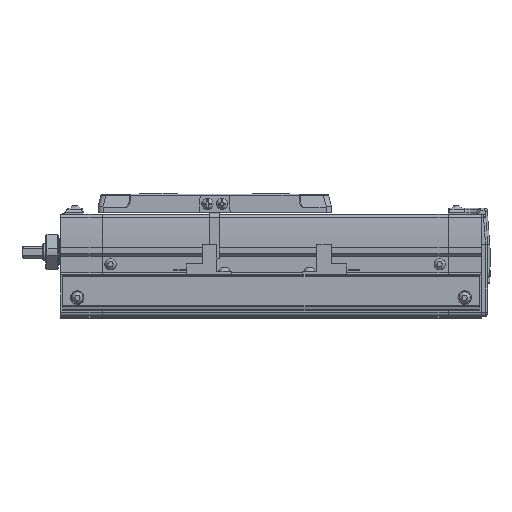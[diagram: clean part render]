
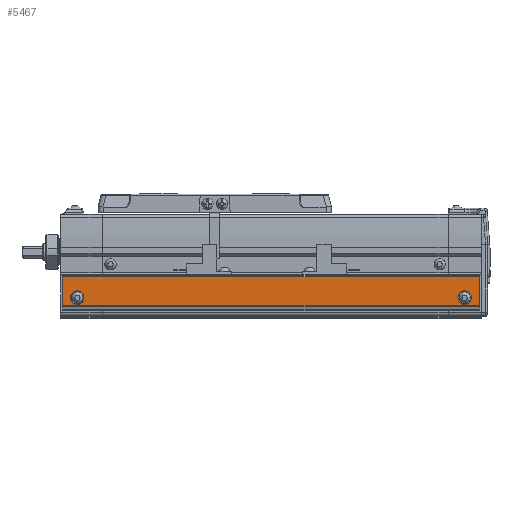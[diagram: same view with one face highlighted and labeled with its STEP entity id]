
A CAD part, front view. The second image highlights one B-rep face of the part: STEP entity #5467.
In plain terms, the highlighted planar face has unit normal (0, -1, 0) as drawn and (1, 0, 0) by its records, which use the part's own axes.
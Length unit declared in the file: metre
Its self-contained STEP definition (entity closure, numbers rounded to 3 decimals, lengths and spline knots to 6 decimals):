
#5467=ADVANCED_FACE('',(#10987,#10988,#10989),#10990,.T.);
#10987=FACE_BOUND('',#17829,.T.);
#10988=FACE_BOUND('',#17830,.T.);
#10989=FACE_OUTER_BOUND('',#17831,.T.);
#10990=PLANE('',#17832);
#17829=EDGE_LOOP('',(#33504));
#17830=EDGE_LOOP('',(#33505));
#17831=EDGE_LOOP('',(#33506,#33507,#33508,#33509));
#17832=AXIS2_PLACEMENT_3D('',#33510,#33511,#33512);
#33504=ORIENTED_EDGE('',*,*,#37632,.T.);
#33505=ORIENTED_EDGE('',*,*,#39751,.T.);
#33506=ORIENTED_EDGE('',*,*,#41752,.T.);
#33507=ORIENTED_EDGE('',*,*,#42366,.F.);
#33508=ORIENTED_EDGE('',*,*,#41697,.T.);
#33509=ORIENTED_EDGE('',*,*,#37211,.T.);
#33510=CARTESIAN_POINT('',(0.008,0.009058,0.18));
#33511=DIRECTION('',(1.0,0.,0.0));
#33512=DIRECTION('',(0.,1.0,0.0));
#37211=EDGE_CURVE('',#43240,#43238,#43241,.T.);
#37632=EDGE_CURVE('',#43983,#43983,#43984,.T.);
#39751=EDGE_CURVE('',#47450,#47450,#47451,.T.);
#41697=EDGE_CURVE('',#50215,#43240,#50216,.T.);
#41752=EDGE_CURVE('',#43238,#50294,#50296,.T.);
#42366=EDGE_CURVE('',#50215,#50294,#51045,.T.);
#43238=VERTEX_POINT('',#52107);
#43240=VERTEX_POINT('',#52109);
#43241=LINE('',#52110,#52111);
#43983=VERTEX_POINT('',#53159);
#43984=CIRCLE('',#53160,0.00325);
#47450=VERTEX_POINT('',#58399);
#47451=CIRCLE('',#58400,0.00325);
#50215=VERTEX_POINT('',#62571);
#50216=LINE('',#62572,#62573);
#50294=VERTEX_POINT('',#62678);
#50296=LINE('',#62680,#62681);
#51045=LINE('',#63773,#63774);
#52107=CARTESIAN_POINT('',(0.008,0.01598,0.38));
#52109=CARTESIAN_POINT('',(0.008,0.01598,0.18));
#52110=CARTESIAN_POINT('',(0.008,0.01598,0.18));
#52111=VECTOR('',#65255,1.0);
#53159=CARTESIAN_POINT('',(0.008,0.006,0.18375));
#53160=AXIS2_PLACEMENT_3D('',#65771,#65772,#65773);
#58399=CARTESIAN_POINT('',(0.008,0.006,0.37625));
#58400=AXIS2_PLACEMENT_3D('',#68294,#68295,#68296);
#62571=CARTESIAN_POINT('',(0.008,0.002136,0.18));
#62572=CARTESIAN_POINT('',(0.008,0.002136,0.18));
#62573=VECTOR('',#70472,1.0);
#62678=CARTESIAN_POINT('',(0.008,0.002136,0.38));
#62680=CARTESIAN_POINT('',(0.008,0.002136,0.38));
#62681=VECTOR('',#70548,1.0);
#63773=CARTESIAN_POINT('',(0.008,0.002136,0.18));
#63774=VECTOR('',#71134,1.0);
#65255=DIRECTION('',(0.0,0.0,1.0));
#65771=CARTESIAN_POINT('',(0.008,0.006,0.187));
#65772=DIRECTION('',(-1.0,0.,0.));
#65773=DIRECTION('',(0.,0.,-1.0));
#68294=CARTESIAN_POINT('',(0.008,0.006,0.373));
#68295=DIRECTION('',(-1.0,0.,0.));
#68296=DIRECTION('',(0.,0.,1.0));
#70472=DIRECTION('',(0.,1.0,0.0));
#70548=DIRECTION('',(0.,-1.0,0.0));
#71134=DIRECTION('',(0.0,0.0,1.0));
